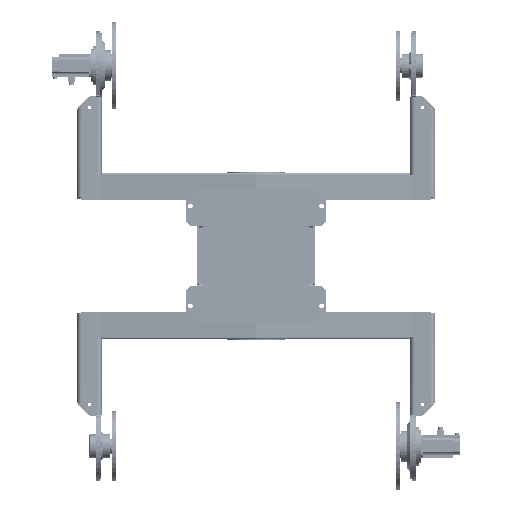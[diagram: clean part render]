
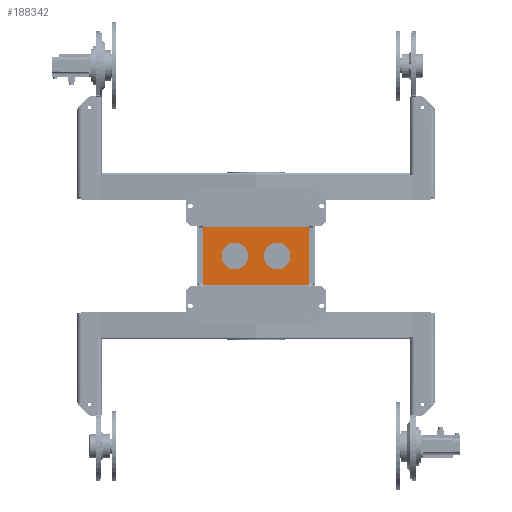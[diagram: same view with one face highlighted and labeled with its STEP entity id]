
A CAD part, front view. The second image highlights one B-rep face of the part: STEP entity #188342.
In plain terms, the highlighted planar face has unit normal (0, -1, 0).
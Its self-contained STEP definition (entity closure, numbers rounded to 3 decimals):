
#149940 = CARTESIAN_POINT ( 'NONE',  ( 196.75, 110., 0. ) ) ;
#150142 = CARTESIAN_POINT ( 'NONE',  ( 45.25, 110., 0. ) ) ;
#150238 = CARTESIAN_POINT ( 'NONE',  ( -196.75, 110., 0. ) ) ;
#150242 = CARTESIAN_POINT ( 'NONE',  ( -45.25, 110., 0. ) ) ;
#150245 = DIRECTION ( 'NONE',  ( -1., 0., 0. ) ) ;
#150247 = DIRECTION ( 'NONE',  ( 0., -1., 0. ) ) ;
#150248 = AXIS2_PLACEMENT_3D ( 'NONE', #150272, #150247, #150245 ) ;
#150251 = CIRCLE ( 'NONE', #150248, 75.75 ) ;
#150272 = CARTESIAN_POINT ( 'NONE',  ( -121., 110., 0. ) ) ;
#150556 = CARTESIAN_POINT ( 'NONE',  ( -301., 110., -168. ) ) ;
#150592 = CARTESIAN_POINT ( 'NONE',  ( -301., 110., 168. ) ) ;
#150608 = DIRECTION ( 'NONE',  ( -1., 0., 0. ) ) ;
#150611 = VECTOR ( 'NONE', #150608, 1000. ) ;
#150613 = CARTESIAN_POINT ( 'NONE',  ( 301., 110., -168. ) ) ;
#150615 = LINE ( 'NONE', #150613, #150611 ) ;
#150623 = DIRECTION ( 'NONE',  ( 1., 0., 0. ) ) ;
#150625 = VECTOR ( 'NONE', #150623, 1000. ) ;
#150627 = CARTESIAN_POINT ( 'NONE',  ( -301., 110., 168. ) ) ;
#150628 = LINE ( 'NONE', #150627, #150625 ) ;
#150634 = DIRECTION ( 'NONE',  ( -1., 0., 0. ) ) ;
#150637 = DIRECTION ( 'NONE',  ( 0., -1., 0. ) ) ;
#150640 = CARTESIAN_POINT ( 'NONE',  ( 121., 110., 0. ) ) ;
#150642 = AXIS2_PLACEMENT_3D ( 'NONE', #150640, #150637, #150634 ) ;
#150645 = CIRCLE ( 'NONE', #150642, 75.75 ) ;
#150649 = CARTESIAN_POINT ( 'NONE',  ( 301., 110., 168. ) ) ;
#150665 = DIRECTION ( 'NONE',  ( -1., 0., 0. ) ) ;
#150667 = DIRECTION ( 'NONE',  ( 0., -1., 0. ) ) ;
#150671 = CARTESIAN_POINT ( 'NONE',  ( 301., 110., 176. ) ) ;
#150672 = AXIS2_PLACEMENT_3D ( 'NONE', #150671, #150667, #150665 ) ;
#150677 = PLANE ( 'NONE',  #150672 ) ;
#150734 = FACE_OUTER_BOUND ( 'NONE', #188322, .T. ) ;
#150736 = FACE_BOUND ( 'NONE', #188403, .T. ) ;
#150739 = FACE_BOUND ( 'NONE', #188343, .T. ) ;
#150742 = DIRECTION ( 'NONE',  ( 0., 0., -1. ) ) ;
#150744 = VECTOR ( 'NONE', #150742, 1000. ) ;
#150747 = CARTESIAN_POINT ( 'NONE',  ( -301., 110., -176. ) ) ;
#150749 = LINE ( 'NONE', #150747, #150744 ) ;
#150831 = CARTESIAN_POINT ( 'NONE',  ( 301., 110., -168. ) ) ;
#150835 = DIRECTION ( 'NONE',  ( 0., 0., 1. ) ) ;
#150837 = VECTOR ( 'NONE', #150835, 1000. ) ;
#150839 = CARTESIAN_POINT ( 'NONE',  ( 301., 110., -176. ) ) ;
#150840 = LINE ( 'NONE', #150839, #150837 ) ;
#150855 = CIRCLE ( 'NONE', #151038, 75.75 ) ;
#151031 = DIRECTION ( 'NONE',  ( -1., 0., 0. ) ) ;
#151034 = DIRECTION ( 'NONE',  ( 0., -1., 0. ) ) ;
#151036 = CARTESIAN_POINT ( 'NONE',  ( 121., 110., 0. ) ) ;
#151038 = AXIS2_PLACEMENT_3D ( 'NONE', #151036, #151034, #151031 ) ;
#151424 = DIRECTION ( 'NONE',  ( -1., 0., 0. ) ) ;
#151426 = DIRECTION ( 'NONE',  ( 0., -1., 0. ) ) ;
#151430 = CARTESIAN_POINT ( 'NONE',  ( -121., 110., 0. ) ) ;
#151431 = AXIS2_PLACEMENT_3D ( 'NONE', #151430, #151426, #151424 ) ;
#151433 = CIRCLE ( 'NONE', #151431, 75.75 ) ;
#188283 = VERTEX_POINT ( 'NONE', #149940 ) ;
#188284 = VERTEX_POINT ( 'NONE', #150142 ) ;
#188300 = EDGE_CURVE ( 'NONE', #188301, #188302, #150251, .T. ) ;
#188301 = VERTEX_POINT ( 'NONE', #150242 ) ;
#188302 = VERTEX_POINT ( 'NONE', #150238 ) ;
#188320 = ORIENTED_EDGE ( 'NONE', *, *, #188321, .F. ) ;
#188321 = EDGE_CURVE ( 'NONE', #188284, #188283, #150645, .T. ) ;
#188322 = EDGE_LOOP ( 'NONE', ( #188323, #188324, #188326, #188327 ) ) ;
#188323 = ORIENTED_EDGE ( 'NONE', *, *, #188350, .T. ) ;
#188324 = ORIENTED_EDGE ( 'NONE', *, *, #188325, .F. ) ;
#188325 = EDGE_CURVE ( 'NONE', #188331, #188347, #150628, .T. ) ;
#188326 = ORIENTED_EDGE ( 'NONE', *, *, #188341, .T. ) ;
#188327 = ORIENTED_EDGE ( 'NONE', *, *, #188328, .F. ) ;
#188328 = EDGE_CURVE ( 'NONE', #188351, #188339, #150615, .T. ) ;
#188331 = VERTEX_POINT ( 'NONE', #150592 ) ;
#188339 = VERTEX_POINT ( 'NONE', #150556 ) ;
#188341 = EDGE_CURVE ( 'NONE', #188331, #188339, #150749, .T. ) ;
#188342 = ADVANCED_FACE ( 'NONE', ( #150739, #150736, #150734 ), #150677, .T. ) ;
#188343 = EDGE_LOOP ( 'NONE', ( #188344, #188401 ) ) ;
#188344 = ORIENTED_EDGE ( 'NONE', *, *, #188300, .F. ) ;
#188347 = VERTEX_POINT ( 'NONE', #150649 ) ;
#188350 = EDGE_CURVE ( 'NONE', #188351, #188347, #150840, .T. ) ;
#188351 = VERTEX_POINT ( 'NONE', #150831 ) ;
#188362 = EDGE_CURVE ( 'NONE', #188283, #188284, #150855, .T. ) ;
#188401 = ORIENTED_EDGE ( 'NONE', *, *, #188402, .F. ) ;
#188402 = EDGE_CURVE ( 'NONE', #188302, #188301, #151433, .T. ) ;
#188403 = EDGE_LOOP ( 'NONE', ( #188404, #188320 ) ) ;
#188404 = ORIENTED_EDGE ( 'NONE', *, *, #188362, .F. ) ;
